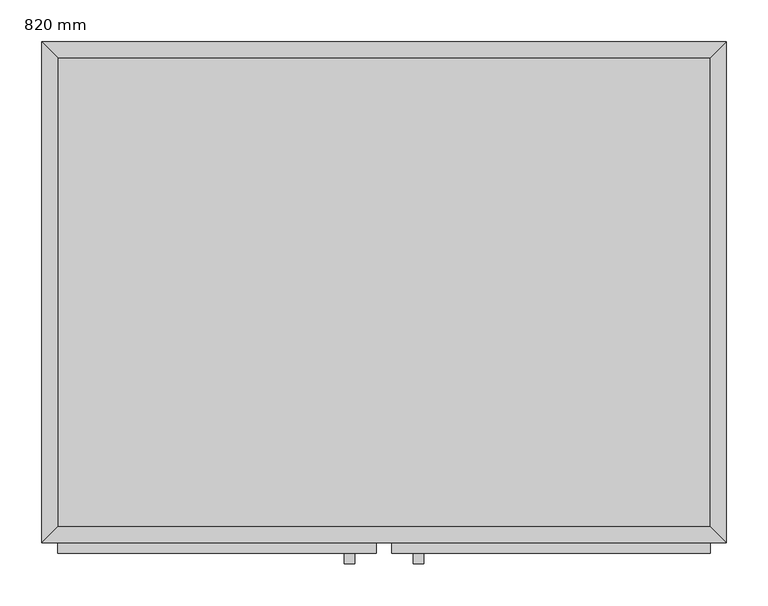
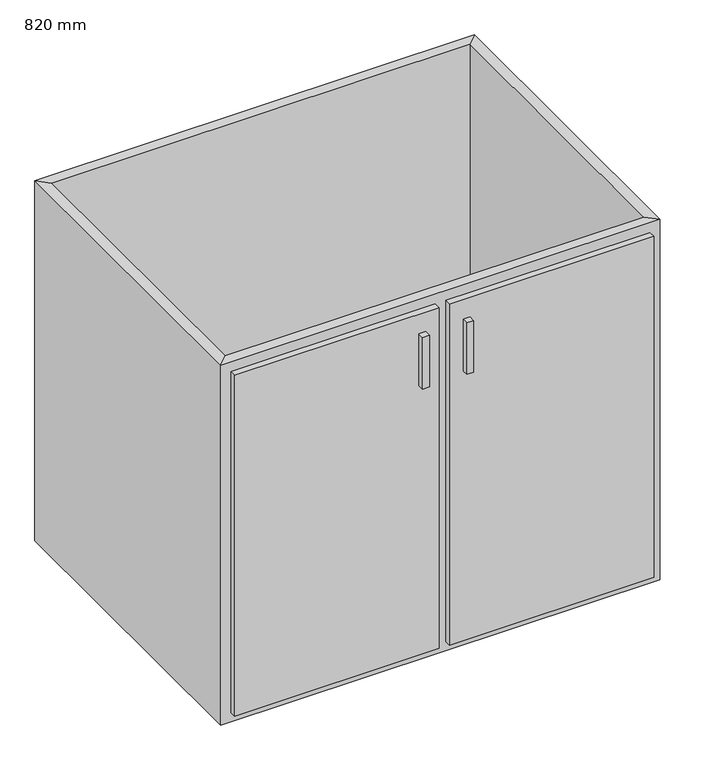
"""IFC4 building model written with IfcOpenShell, lengths in millimetres: furniture geometry, Armario-Puerta doble Unidad de fregadero : 820 mm."""

from ifc_helpers import new_model, si_unit, frame, origin, place, context, project, spatial, polyline, outline, extrude, faceted_brep, source, transform, mapped, element, save


def furniture_820_mm_546e8a10(model_context):
    return source(origin(), model_context, "Body", "SolidModel", [
        extrude(outline(polyline([(409.6877049, -19.05), (409.6877049, -580.95), (-372.2122951, -580.95), (-372.2122951, -19.05), (409.6877049, -19.05)])), frame((0.0, 0.0, 150.0), z_axis=(0.0, 0.0, 1.0), x_axis=(1.0, 0.0, 0.0)), (0.0, 0.0, 1.0), 19.05),
        faceted_brep([(409.6877049, -580.95, 860.0), (409.6877049, -580.95, 150.0), (-372.2122951, -580.95, 150.0), (-372.2122951, -580.95, 860.0), (428.7377049, -600.0, 860.0), (-391.2622951, -600.0, 860.0), (428.7377049, -600.0, 150.0), (-391.2622951, -600.0, 150.0), (-372.2122951, -19.05, 150.0), (-372.2122951, -19.05, 860.0), (-391.2622951, 0.0, 860.0), (-391.2622951, 0.0, 150.0), (409.6877049, -19.05, 150.0), (409.6877049, -19.05, 860.0), (428.7377049, 0.0, 860.0), (428.7377049, 0.0, 150.0)], [[[0, 1, 2, 3]], [[4, 0, 3, 5]], [[6, 4, 5, 7]], [[1, 6, 7, 2]], [[3, 2, 8, 9]], [[5, 3, 9, 10]], [[7, 5, 10, 11]], [[2, 7, 11, 8]], [[9, 8, 12, 13]], [[10, 9, 13, 14]], [[11, 10, 14, 15]], [[8, 11, 15, 12]], [[13, 12, 1, 0]], [[14, 13, 0, 4]], [[15, 14, 4, 6]], [[12, 15, 6, 1]]]),
        extrude(outline(polyline([(9.2127049, -612.7), (-372.2122951, -612.7), (-372.2122951, -600.0), (9.2127049, -600.0), (9.2127049, -612.7)])), frame((0.0, 0.0, 169.05), z_axis=(0.0, 0.0, 1.0), x_axis=(1.0, 0.0, 0.0)), (0.0, 0.0, 1.0), 671.9),
        extrude(outline(polyline([(409.6877049, -612.7), (28.2627049, -612.7), (28.2627049, -600.0), (409.6877049, -600.0), (409.6877049, -612.7)])), frame((0.0, 0.0, 169.05), z_axis=(0.0, 0.0, 1.0), x_axis=(1.0, 0.0, 0.0)), (0.0, 0.0, 1.0), 671.9),
        extrude(outline(polyline([(-16.1872951, -625.4), (-28.8872951, -625.4), (-28.8872951, -612.7), (-16.1872951, -612.7), (-16.1872951, -625.4)])), frame((0.0, 0.0, 701.25), z_axis=(0.0, 0.0, 1.0), x_axis=(1.0, 0.0, 0.0)), (0.0, 0.0, 1.0), 101.6),
        extrude(outline(polyline([(66.3627049, -625.4), (53.6627049, -625.4), (53.6627049, -612.7), (66.3627049, -612.7), (66.3627049, -625.4)])), frame((0.0, 0.0, 701.25), z_axis=(0.0, 0.0, 1.0), x_axis=(1.0, 0.0, 0.0)), (0.0, 0.0, 1.0), 101.6),
    ])


if __name__ == "__main__":
    model = new_model("IFC4")
    model_context = context("Model", 3, world=origin())
    ifc_project = project(units=[si_unit("LENGTHUNIT", "METRE", prefix="MILLI")], contexts=[model_context])
    site = spatial("IfcSite", under=ifc_project)
    building = spatial("IfcBuilding", under=site)
    placement = place(None, origin())
    furniture_820_mm_shape = furniture_820_mm_546e8a10(model_context)
    element("IfcFurniture", 1, ObjectType="Armario-Puerta doble Unidad de fregadero : 820 mm", at=placement, inside=building, context=model_context, shape_type="MappedRepresentation", body=[
        mapped(furniture_820_mm_shape, transform((0.0, 0.0, 0.0), x_axis=(1.0, 0.0, 0.0), y_axis=(0.0, 1.0, 0.0), z_axis=(0.0, 0.0, 1.0))),
    ])
    save(model, "model.ifc")
